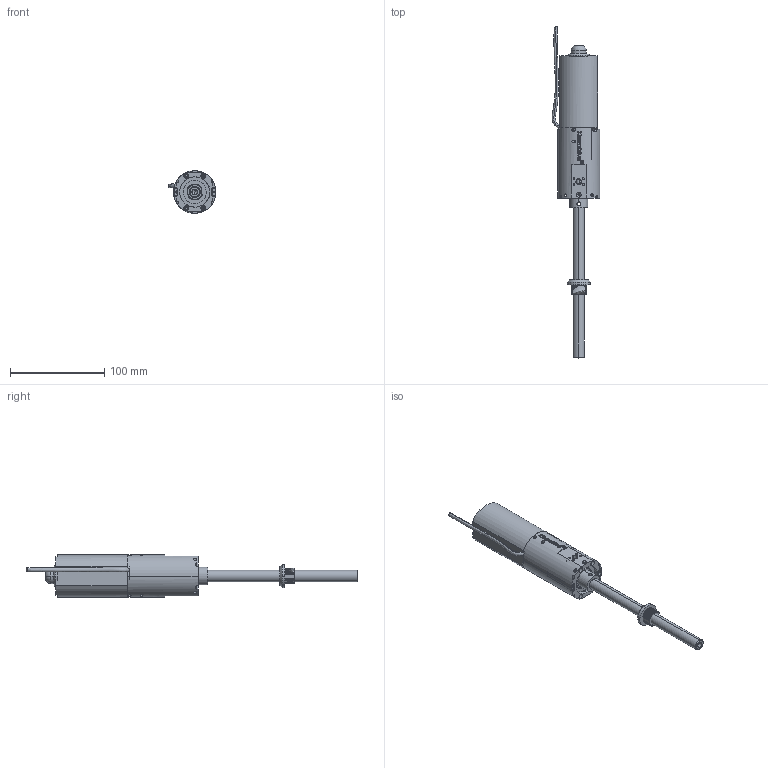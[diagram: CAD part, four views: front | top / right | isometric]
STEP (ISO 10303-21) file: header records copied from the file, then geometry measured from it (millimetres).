
FILE_DESCRIPTION (( 'STEP AP203' ), '1' );
FILE_NAME ('Koax D.STEP', '2009-06-03T06:21:13', ( 'PC' ), ( 'PC' ), 'SwSTEP 2.0', 'SolidWorks 2007', '' );
FILE_SCHEMA (( 'CONFIG_CONTROL_DESIGN' ));
Products named in the file (13): Koax D; Kabel Koax_kurz; Mot 43_Standard; Hülse_Standard; Socket Head Thin Cap Screw_DIN_DIN 7984 - M6 x 25 --- 22N; Spindelpatrone_Koax D Katalog; Spindel_kpl._Koax D Katalog; Spindel 12x12_Koax D Katalog; Baugruppe1_Productform; Lager_6002; Lager_607; Spindeladapter2 _Standard; Mutter 12x12_kurze Ausführung
Assembly tree (12 placements, depth 4):
  Koax D
    Socket Head Thin Cap Screw_DIN_DIN 7984 - M6 x 25 --- 22N
    Kabel Koax_kurz
    Spindeladapter2 _Standard
    Spindelpatrone_Koax D Katalog
      Spindel_kpl._Koax D Katalog
        Spindel 12x12_Koax D Katalog
    Mutter 12x12_kurze Ausführung
    Baugruppe1_Productform
      Lager_6002
      Mot 43_Standard
      Hülse_Standard
      Lager_607
Bounding box: 50.83 x 352.3 x 45 mm (x, y, z)
Volume: 182723 mm3; surface area: 59896.7 mm2
Topology: 11 solids, 11 shells, 844 faces, 2186 edges, 1418 vertices
Faces by surface type: plane 302, cylinder 212, bspline 170, cone 117, torus 43
Entity records: 97229 total; most frequent: CARTESIAN_POINT 76464, ORIENTED_EDGE 4348, DIRECTION 3573, EDGE_CURVE 2174, VERTEX_POINT 1418, AXIS2_PLACEMENT_3D 1334, EDGE_LOOP 970, VECTOR 905
